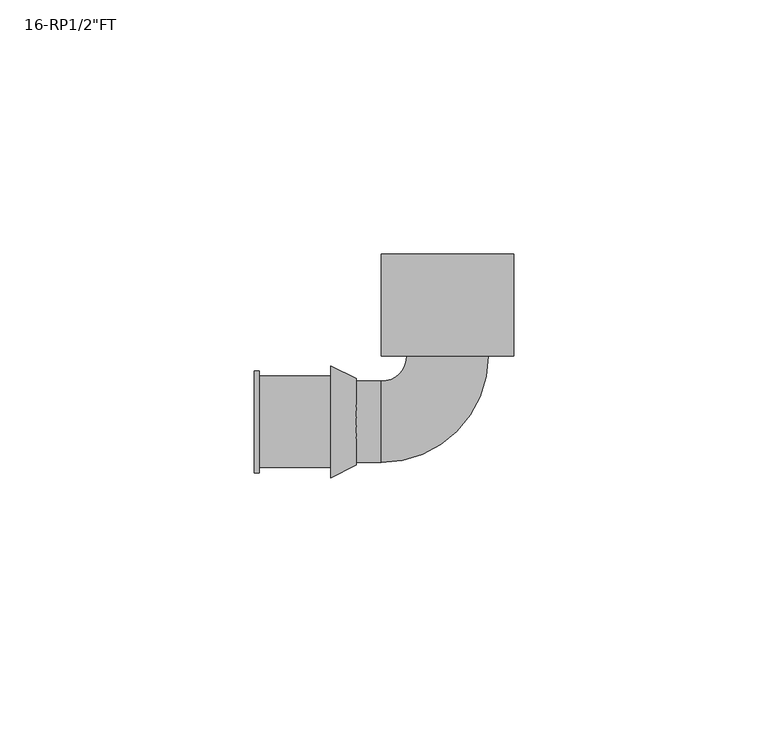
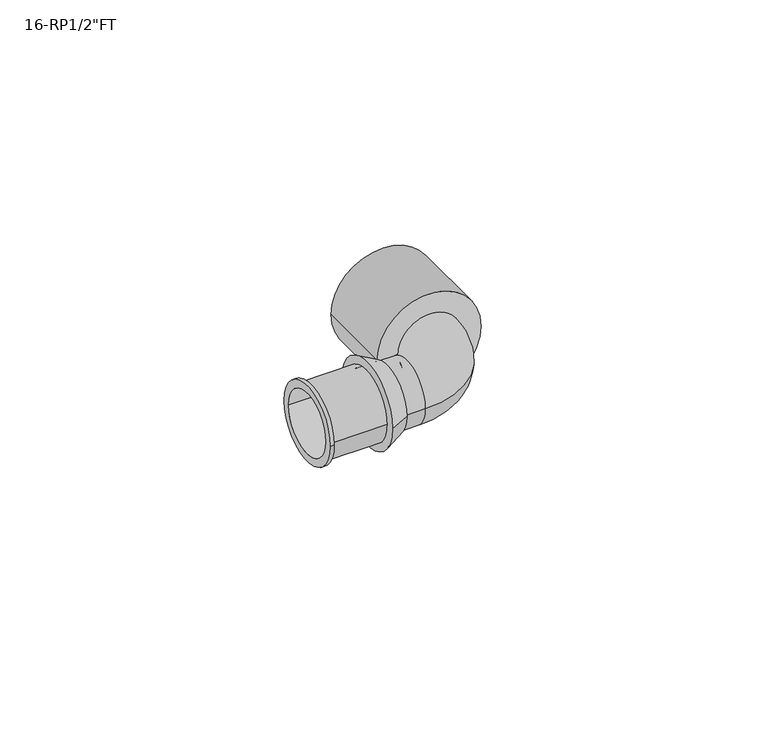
"""IFC4 building model written with IfcOpenShell, lengths in millimetres: pipe fitting geometry."""

from ifc_helpers import new_model, si_unit, point, frame, origin, place, context, project, spatial, polyline, circle_curve, ellipse_curve, trimmed, source, transform, mapped, element, save
from ifc_brep_helpers import plane_surface, cylinder_surface, revolved_surface, advanced_brep


def pipe_fitting_d59b398c(model_context):
    return source(origin(), model_context, "Body", "AdvancedBrep", [
        advanced_brep(
        [(-13.0, 33.0, 0.0), (13.0, 33.0, 0.0), (-10.0, 33.0, 0.0), (10.0, 33.0, 0.0), (-13.0, 13.0, 0.0), (13.0, 13.0, 0.0), (-10.0, 14.0, 0.0), (10.0, 14.0, 0.0)],
        [
            (0, 1, circle_curve(frame((0.0, 33.0, 0.0), z_axis=(0.0, 1.0, 0.0), x_axis=(1.0, 0.0, 0.0)), 13.0)),
            (1, 0, circle_curve(frame((0.0, 33.0, 0.0), z_axis=(0.0, 1.0, 0.0), x_axis=(1.0, 0.0, 0.0)), 13.0)),
            (2, 3, circle_curve(frame((0.0, 33.0, 0.0), z_axis=(0.0, -1.0, 0.0), x_axis=(1.0, 0.0, 0.0)), 10.0)),
            (3, 2, circle_curve(frame((0.0, 33.0, 0.0), z_axis=(0.0, -1.0, 0.0), x_axis=(1.0, 0.0, 0.0)), 10.0)),
            (4, 5, circle_curve(frame((0.0, 13.0, 0.0), z_axis=(0.0, -1.0, 0.0), x_axis=(1.0, 0.0, 0.0)), 13.0)),
            (5, 4, circle_curve(frame((0.0, 13.0, 0.0), z_axis=(0.0, -1.0, 0.0), x_axis=(1.0, 0.0, 0.0)), 13.0)),
            (1, 5),
            (4, 0),
            (2, 6),
            (6, 7, circle_curve(frame((0.0, 14.0, 0.0), z_axis=(0.0, -1.0, 0.0), x_axis=(1.0, 0.0, 0.0)), 10.0)),
            (7, 3),
            (7, 6, circle_curve(frame((0.0, 14.0, 0.0), z_axis=(0.0, -1.0, 0.0), x_axis=(1.0, 0.0, 0.0)), 10.0)),
        ],
        [
            plane_surface(frame((0.0, 33.0, 0.0), z_axis=(0.0, 1.0, 0.0), x_axis=(0.0, 0.0, 1.0))),
            plane_surface(frame((0.0, 13.0, 0.0), z_axis=(0.0, -1.0, 0.0), x_axis=(0.0, 0.0, 1.0))),
            cylinder_surface(frame((0.0, 33.0, 0.0), z_axis=(0.0, 1.0, 0.0), x_axis=(1.0, 0.0, 0.0)), 13.0),
            revolved_surface(polyline([(10.0, 14.0, 0.0), (10.0, 33.0, 0.0)]), (0.0, 33.0, 0.0), (0.0, -1.0, 0.0)),
            plane_surface(frame((0.0, 14.0, 0.0), z_axis=(0.0, 1.0, 0.0), x_axis=(0.0, 0.0, 1.0))),
        ],
        [
            (0, [[1, 2], [3, 4]]),
            (1, [[5, 6]]),
            (2, [[-2, 7, -5, 8]]),
            (2, [[-1, -8, -6, -7]]),
            (3, [[-3, 9, 10, 11]]),
            (3, [[-4, -11, 12, -9]]),
            (4, [[-10, -12]]),
        ],
    ),
        advanced_brep(
        [(8.0, 13.0, 0.0), (-8.0, 13.0, 0.0), (-13.0, 8.0, 0.0), (-13.0, -8.0, 0.0), (-18.0, -8.0, 0.0), (-18.0, 8.0, 0.0)],
        [
            (0, 1, circle_curve(frame((0.0, 13.0, 0.0), z_axis=(0.0, 1.0, 0.0), x_axis=(-1.0, 0.0, 0.0)), 8.0)),
            (1, 0, circle_curve(frame((0.0, 13.0, 0.0), z_axis=(0.0, 1.0, 0.0), x_axis=(-1.0, 0.0, 0.0)), 8.0)),
            (1, 2, circle_curve(frame((-13.0, 13.0, 0.0), z_axis=(0.0, 0.0, -1.0), x_axis=(0.0, -1.0, 0.0)), 5.0)),
            (2, 3, circle_curve(frame((-13.0, 0.0, 0.0), z_axis=(1.0, 0.0, 0.0), x_axis=(0.0, 1.0, 0.0)), 8.0)),
            (3, 0, circle_curve(frame((-13.0, 13.0, 0.0), z_axis=(0.0, 0.0, 1.0), x_axis=(0.0, -1.0, 0.0)), 21.0)),
            (3, 2, circle_curve(frame((-13.0, 0.0, 0.0), z_axis=(1.0, 0.0, 0.0), x_axis=(0.0, 1.0, 0.0)), 8.0)),
            (4, 5, circle_curve(frame((-18.0, 0.0, 0.0), z_axis=(-1.0, 0.0, 0.0), x_axis=(0.0, 1.0, 0.0)), 8.0)),
            (5, 4, circle_curve(frame((-18.0, 0.0, 0.0), z_axis=(-1.0, 0.0, 0.0), x_axis=(0.0, 1.0, 0.0)), 8.0)),
            (4, 3),
            (2, 5),
        ],
        [
            plane_surface(frame((0.0, 13.0, 0.0), z_axis=(0.0, 1.0, 0.0), x_axis=(0.0, 0.0, 1.0))),
            revolved_surface(trimmed(ellipse_curve(frame((-13.0, 0.0, 0.0), z_axis=(-1.0, 0.0, 0.0), x_axis=(0.0, 1.0, 0.0)), 8.0, 8.0), [point((-13.0, -8.0, 0.0))], [point((-13.0, 8.0, 0.0))], True, "CARTESIAN"), (-13.0, 13.0, 0.0), (0.0, 0.0, 1.0)),
            revolved_surface(trimmed(ellipse_curve(frame((-13.0, 0.0, 0.0), z_axis=(-1.0, 0.0, 0.0), x_axis=(0.0, 1.0, 0.0)), 8.0, 8.0), [point((-13.0, 8.0, 0.0))], [point((-13.0, -8.0, 0.0))], True, "CARTESIAN"), (-13.0, 13.0, 0.0), (0.0, 0.0, 1.0)),
            plane_surface(frame((-18.0, 0.0, 0.0), z_axis=(-1.0, 0.0, 0.0), x_axis=(0.0, 0.0, 1.0))),
            cylinder_surface(frame((-18.0, 0.0, 0.0), z_axis=(-1.0, 0.0, 0.0), x_axis=(0.0, 1.0, 0.0)), 8.0),
        ],
        [
            (0, [[1, 2]]),
            (1, [[-2, 3, 4, 5]]),
            (2, [[-1, -5, 6, -3]]),
            (3, [[7, 8]]),
            (4, [[-7, 9, -4, 10]]),
            (4, [[-8, -10, -6, -9]]),
        ],
    ),
        advanced_brep(
        [(-18.0, -8.5, 0.0), (-18.0, 8.5, 0.0), (-18.0, 8.0, 0.0), (-18.0, -8.0, 0.0), (-23.0, -11.0, 0.0), (-23.0, 11.0, 0.0), (-23.0, -8.0, 0.0), (-23.0, 8.0, 0.0)],
        [
            (0, 1, circle_curve(frame((-18.0, 0.0, 0.0), z_axis=(1.0, 0.0, 0.0), x_axis=(0.0, -1.0, 0.0)), 8.5)),
            (1, 0, circle_curve(frame((-18.0, 0.0, 0.0), z_axis=(1.0, 0.0, 0.0), x_axis=(0.0, 1.0, 0.0)), 8.5)),
            (2, 3, circle_curve(frame((-18.0, 0.0, 0.0), z_axis=(-1.0, 0.0, 0.0), x_axis=(0.0, 1.0, 0.0)), 8.0)),
            (3, 2, circle_curve(frame((-18.0, 0.0, 0.0), z_axis=(-1.0, 0.0, 0.0), x_axis=(0.0, 1.0, 0.0)), 8.0)),
            (4, 5, circle_curve(frame((-23.0, 0.0, 0.0), z_axis=(-1.0, 0.0, 0.0), x_axis=(0.0, 1.0, 0.0)), 11.0)),
            (5, 4, circle_curve(frame((-23.0, 0.0, 0.0), z_axis=(-1.0, 0.0, 0.0), x_axis=(0.0, -1.0, 0.0)), 11.0)),
            (6, 7, circle_curve(frame((-23.0, 0.0, 0.0), z_axis=(1.0, 0.0, 0.0), x_axis=(0.0, 1.0, 0.0)), 8.0)),
            (7, 6, circle_curve(frame((-23.0, 0.0, 0.0), z_axis=(1.0, 0.0, 0.0), x_axis=(0.0, 1.0, 0.0)), 8.0)),
            (0, 4),
            (5, 1),
            (2, 7),
            (6, 3),
        ],
        [
            plane_surface(frame((-18.0, 0.0, 0.0), z_axis=(1.0, 0.0, 0.0), x_axis=(0.0, 0.0, -1.0))),
            plane_surface(frame((-23.0, 0.0, 0.0), z_axis=(-1.0, 0.0, 0.0), x_axis=(0.0, 0.0, -1.0))),
            revolved_surface(polyline([(-18.0, -8.5, 0.0), (-23.0, -11.0, 0.0)]), (-1.0, 0.0, 0.0), (-1.0, 0.0, 0.0)),
            revolved_surface(polyline([(-18.0, 8.5, 0.0), (-23.0, 11.0, 0.0)]), (-1.0, 0.0, 0.0), (-1.0, 0.0, 0.0)),
            revolved_surface(polyline([(-18.0, 8.0, 0.0), (-23.0, 8.0, 0.0)]), (-23.0, 0.0, 0.0), (1.0, 0.0, 0.0)),
        ],
        [
            (0, [[1, 2], [3, 4]]),
            (1, [[5, 6], [7, 8]]),
            (2, [[-1, 9, -6, 10]]),
            (3, [[-2, -10, -5, -9]]),
            (4, [[11, -7, 12, -3]]),
            (4, [[-11, -4, -12, -8]]),
        ],
    ),
        advanced_brep(
        [(-38.0, -10.0, 0.0), (-38.0, 10.0, 0.0), (-38.0, -8.0, 0.0), (-38.0, 8.0, 0.0), (-23.0, -9.0, 0.0), (-23.0, 9.0, 0.0), (-23.0, -8.0, 0.0), (-23.0, 8.0, 0.0), (-37.0, 9.0, 0.0), (-37.0, -9.0, 0.0), (-37.0, -10.0, 0.0), (-37.0, 10.0, 0.0)],
        [
            (0, 1, circle_curve(frame((-38.0, 0.0, 0.0), z_axis=(-1.0, 0.0, 0.0), x_axis=(0.0, 1.0, 0.0)), 10.0)),
            (1, 0, circle_curve(frame((-38.0, 0.0, 0.0), z_axis=(-1.0, 0.0, 0.0), x_axis=(0.0, 1.0, 0.0)), 10.0)),
            (2, 3, circle_curve(frame((-38.0, 0.0, 0.0), z_axis=(1.0, 0.0, 0.0), x_axis=(0.0, 1.0, 0.0)), 8.0)),
            (3, 2, circle_curve(frame((-38.0, 0.0, 0.0), z_axis=(1.0, 0.0, 0.0), x_axis=(0.0, 1.0, 0.0)), 8.0)),
            (4, 5, circle_curve(frame((-23.0, 0.0, 0.0), z_axis=(1.0, 0.0, 0.0), x_axis=(0.0, 1.0, 0.0)), 9.0)),
            (5, 4, circle_curve(frame((-23.0, 0.0, 0.0), z_axis=(1.0, 0.0, 0.0), x_axis=(0.0, 1.0, 0.0)), 9.0)),
            (6, 7, circle_curve(frame((-23.0, 0.0, 0.0), z_axis=(-1.0, 0.0, 0.0), x_axis=(0.0, 1.0, 0.0)), 8.0)),
            (7, 6, circle_curve(frame((-23.0, 0.0, 0.0), z_axis=(-1.0, 0.0, 0.0), x_axis=(0.0, 1.0, 0.0)), 8.0)),
            (2, 6),
            (7, 3),
            (5, 8),
            (8, 9, circle_curve(frame((-37.0, 0.0, 0.0), z_axis=(1.0, 0.0, 0.0), x_axis=(0.0, 1.0, 0.0)), 9.0)),
            (9, 4),
            (9, 8, circle_curve(frame((-37.0, 0.0, 0.0), z_axis=(1.0, 0.0, 0.0), x_axis=(0.0, 1.0, 0.0)), 9.0)),
            (10, 11, circle_curve(frame((-37.0, 0.0, 0.0), z_axis=(1.0, 0.0, 0.0), x_axis=(0.0, 1.0, 0.0)), 10.0)),
            (11, 10, circle_curve(frame((-37.0, 0.0, 0.0), z_axis=(1.0, 0.0, 0.0), x_axis=(0.0, 1.0, 0.0)), 10.0)),
            (0, 10),
            (11, 1),
        ],
        [
            plane_surface(frame((-38.0, 0.0, 0.0), z_axis=(-1.0, 0.0, 0.0), x_axis=(0.0, 0.0, 1.0))),
            plane_surface(frame((-23.0, 0.0, 0.0), z_axis=(1.0, 0.0, 0.0), x_axis=(0.0, 0.0, 1.0))),
            revolved_surface(polyline([(-23.0, 8.0, 0.0), (-38.0, 8.0, 0.0)]), (-38.0, 0.0, 0.0), (1.0, 0.0, 0.0)),
            cylinder_surface(frame((-38.0, 0.0, 0.0), z_axis=(-1.0, 0.0, 0.0), x_axis=(0.0, 1.0, 0.0)), 9.0),
            plane_surface(frame((-37.0, 0.0, 0.0), z_axis=(1.0, 0.0, 0.0), x_axis=(0.0, 0.0, 1.0))),
            cylinder_surface(frame((-38.0, 0.0, 0.0), z_axis=(-1.0, 0.0, 0.0), x_axis=(0.0, 1.0, 0.0)), 10.0),
        ],
        [
            (0, [[1, 2], [3, 4]]),
            (1, [[5, 6], [7, 8]]),
            (2, [[-3, 9, -8, 10]]),
            (2, [[-4, -10, -7, -9]]),
            (3, [[-6, 11, 12, 13]]),
            (3, [[-5, -13, 14, -11]]),
            (4, [[15, 16], [-12, -14]]),
            (5, [[-1, 17, -16, 18]]),
            (5, [[-2, -18, -15, -17]]),
        ],
    ),
    ])


if __name__ == "__main__":
    model = new_model("IFC4")
    model_context = context("Model", 3, world=origin())
    ifc_project = project(units=[si_unit("LENGTHUNIT", "METRE", prefix="MILLI")], contexts=[model_context])
    site = spatial("IfcSite", under=ifc_project)
    building = spatial("IfcBuilding", under=site)
    placement = place(None, origin())
    pipe_fitting_shape = pipe_fitting_d59b398c(model_context)
    element("IfcPipeFitting", 1, ObjectType="SuperPipe_ElbowAdapterFT_MAX_RP : 16-RP1/2\"FT", at=placement, inside=building, context=model_context, shape_type="MappedRepresentation", body=[
        mapped(pipe_fitting_shape, transform((0.0, 0.0, 0.0), x_axis=(1.0, 0.0, 0.0), y_axis=(0.0, 1.0, 0.0), z_axis=(0.0, 0.0, 1.0))),
    ])
    save(model, "model.ifc")
